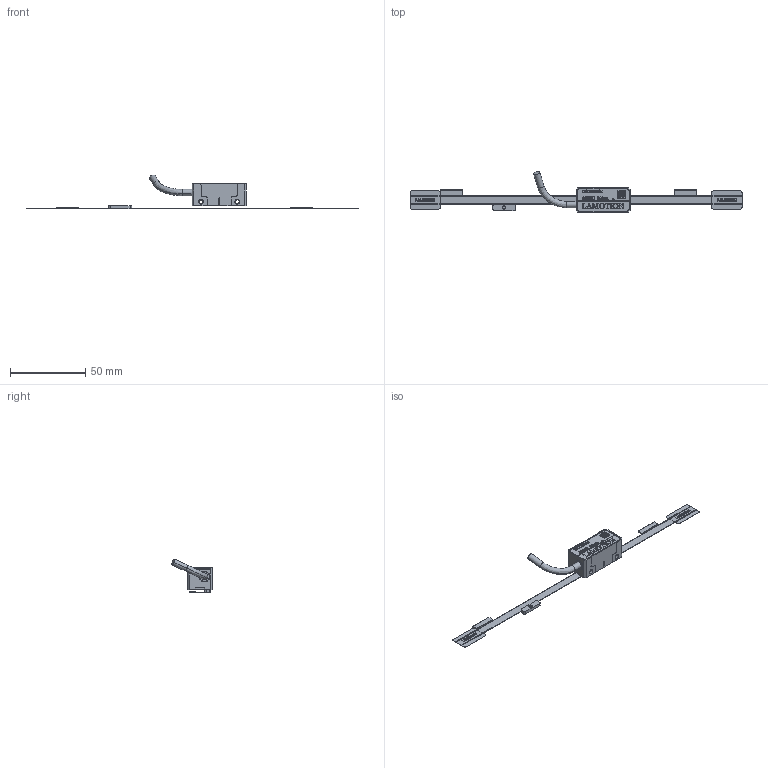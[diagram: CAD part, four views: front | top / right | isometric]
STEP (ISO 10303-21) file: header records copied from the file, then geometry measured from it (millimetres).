
FILE_DESCRIPTION (( 'STEP AP203' ), '1' );
FILE_NAME ('D2 读数头安装示意图.STEP', '2024-08-28T06:09:05', ( '' ), ( '' ), 'SwSTEP 2.0', 'SolidWorks 2024', '' );
FILE_SCHEMA (( 'CONFIG_CONTROL_DESIGN' ));
Length unit declared in the file: millimetre
Products named in the file (18): H2 端压片; pvc tie mo-06-2weimaD2; 读数头壳体加玻璃限位版本; 固定线铝环; D2 读数头安装示意图; D2S 栅尺; RU2-LMT-R 双限位磁铁; D2读数头、; 2weima; 导线; 玻璃片7-10-1; 端压片 平 H2-2; LM017-005-01 磁铁外壳; 端压片 平 H2-3; H2 端压片-1; REF 零位磁铁; 2-1.5磁铁; 读数头壳体2024
Assembly tree (20 placements, depth 4):
  D2 读数头安装示意图
    D2读数头、
      读数头壳体加玻璃限位版本
        读数头壳体2024
      固定线铝环
      玻璃片7-10-1
      导线
      pvc tie mo-06-2weimaD2
      2weima
    D2S 栅尺
    H2 端压片  x2
      H2 端压片-1
      端压片 平 H2-2
      端压片 平 H2-3
    RU2-LMT-R 双限位磁铁  x2
    REF 零位磁铁
      LM017-005-01 磁铁外壳
      2-1.5磁铁
Bounding box: 220 x 26.98 x 22.49 mm (x, y, z)
Volume: 7605.6 mm3; surface area: 9715.8 mm2
Topology: 33 solids, 36 shells, 1430 faces, 3869 edges, 2570 vertices
Faces by surface type: plane 991, bspline 293, cylinder 135, cone 11
Entity records: 52467 total; most frequent: CARTESIAN_POINT 21087, ORIENTED_EDGE 6624, DIRECTION 5073, EDGE_CURVE 3312, VECTOR 2565, LINE 2565, VERTEX_POINT 2200, EDGE_LOOP 1294
